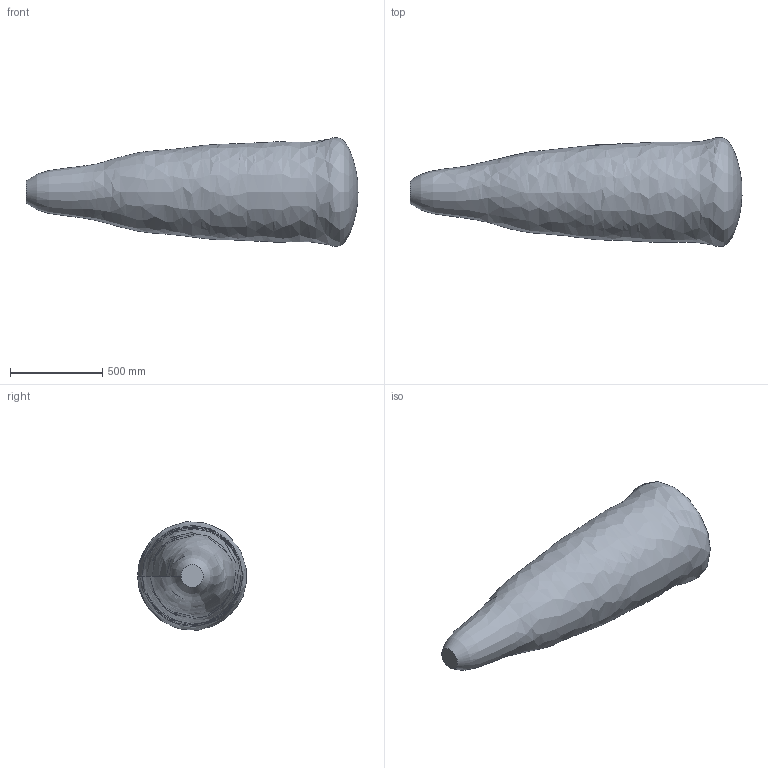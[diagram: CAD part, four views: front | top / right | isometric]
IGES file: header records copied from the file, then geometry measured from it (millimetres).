
Global section: file name: No Iges File Name specified; native system: AutoDesk Inventor R6.1; preprocessor: AutoDesk Inventor Iges Exporter R6.1; author: No Author specified; organization: No Organization specified; date: 20050811.082225; units: millimetre
Bounding box: 1800.96 x 590.41 x 587.37 mm (x, y, z)
Surface area: 2676989.5 mm2 (no closed solid volume)
Topology: 0 solids, 0 shells, 2 faces, 5 edges, 3 vertices
Faces by surface type: bspline 1, plane 1
